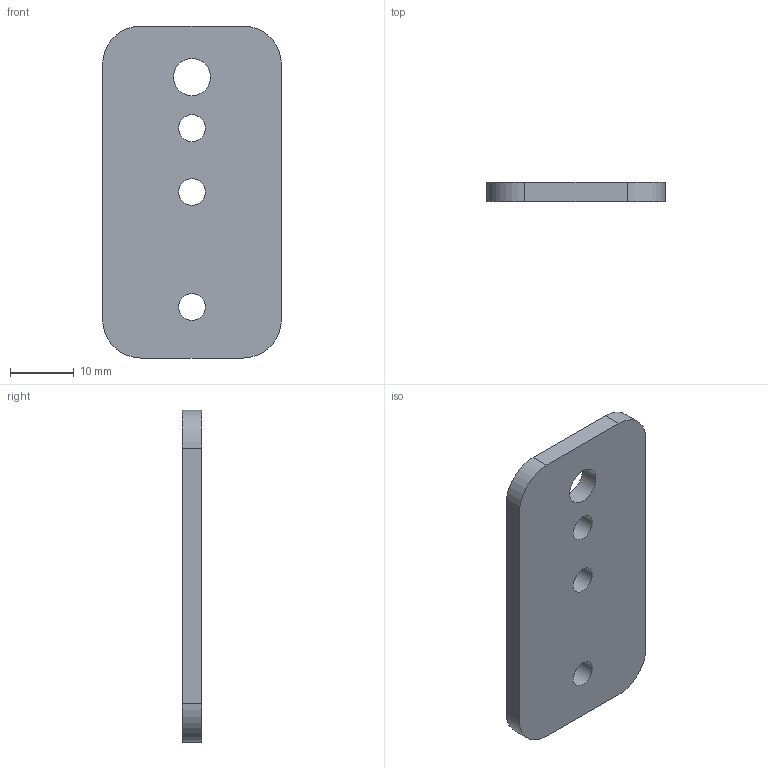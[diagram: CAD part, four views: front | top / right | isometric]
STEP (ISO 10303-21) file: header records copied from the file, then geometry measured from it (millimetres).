
FILE_DESCRIPTION(('FreeCAD Model'),'2;1');
FILE_NAME('Open CASCADE Shape Model','2026-10-14T02:29:04',('FreeCAD'),( 'FreeCAD'),'Open CASCADE STEP processor 7.8','FreeCAD','Unknown');
FILE_SCHEMA(('AUTOMOTIVE_DESIGN { 1 0 10303 214 1 1 1 1 }'));
Length unit declared in the file: millimetre
Products named in the file (1): Open CASCADE STEP translator 7.8 66
Bounding box: 28 x 3 x 52 mm (x, y, z)
Volume: 4071.3 mm3; surface area: 3336.7 mm2
Topology: 1 solids, 1 shells, 14 faces, 36 edges, 24 vertices
Faces by surface type: cylinder 8, plane 6
Full cylindrical faces by diameter (mm): 4.2 x3, 5.8 x1
Entity records: 462 total; most frequent: DIRECTION 82, CARTESIAN_POINT 75, ORIENTED_EDGE 72, EDGE_CURVE 36, AXIS2_PLACEMENT_3D 31, VERTEX_POINT 24, FACE_BOUND 22, EDGE_LOOP 22
